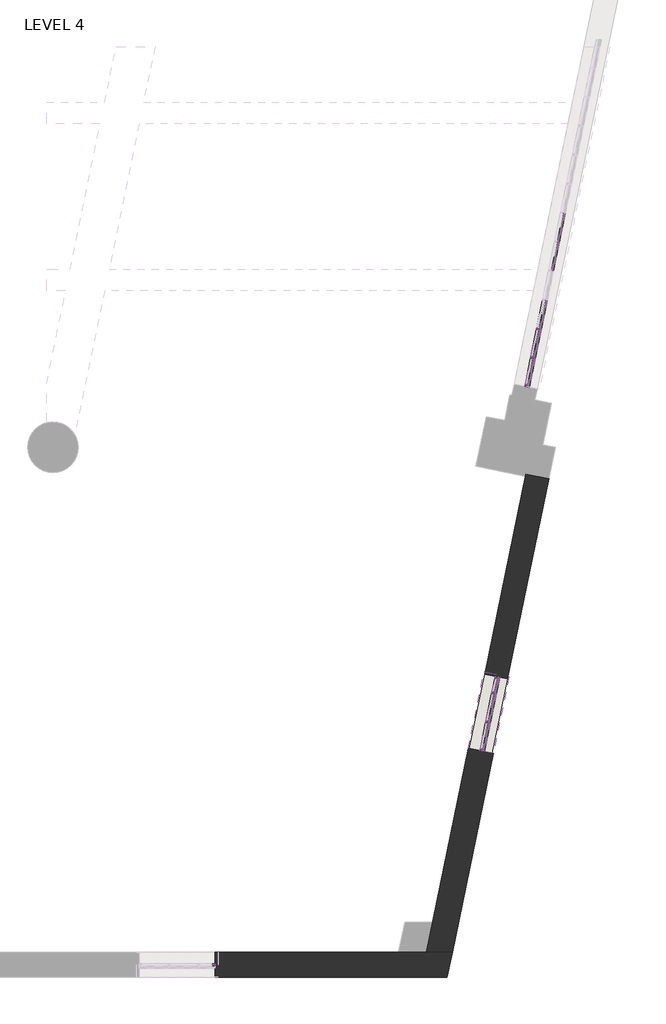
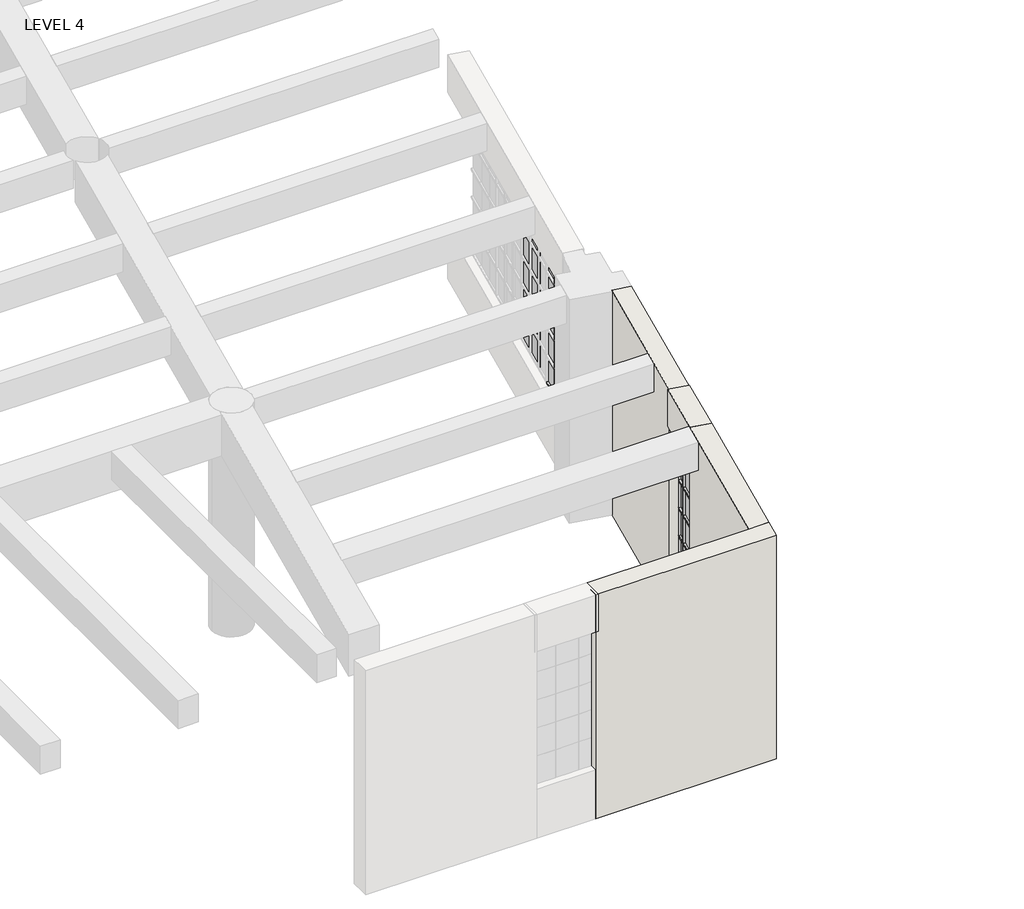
# One storey, part 17 of 26: 70 members, 40 plates, 5 walls.
"""IFC4 building model written with IfcOpenShell, lengths in millimetres."""

from ifc_helpers import new_model, si_unit, frame, origin, origin_with_axes, place, context, project, spatial, polyline, outline, extrude, faceted_brep, transform, mapped, element, save
from components import member_038dcf1c, member_0e6c94ff, member_d9fec558, member_3d4b608b, member_3c10d71f, member_653bb31e, member_9ec6e97d, member_6e26db71, member_5dd0e0a2, member_ff98d70f, member_91c6a23c, member_bbda502c, system_panel_glazed_ab35d819, system_panel_glazed_418eb6cd, system_panel_glazed_3fb58467, system_panel_glazed_40aa9f18, system_panel_glazed_fb44b68d

model = new_model("IFC4")

# Units and contexts
model_context = context("Model", 3, world=origin())
ifc_project = project(units=[si_unit("LENGTHUNIT", "METRE", prefix="MILLI")], contexts=[model_context])

# Site, building, storey
site = spatial("IfcSite", under=ifc_project)
building = spatial("IfcBuilding", under=site)
storey = spatial("IfcBuildingStorey", under=building, Name="LEVEL 4", Elevation=0.0)

# Members
placement = place(None, origin())
member_shape = member_038dcf1c(model_context)
element("IfcMember", 1, ObjectType="Circular Mullion : 1 1/4\" Square", at=placement, inside=storey, context=model_context, shape_type="MappedRepresentation", body=[
    mapped(member_shape, transform((18523.8992341, 89608.7116361, 2628.9), x_axis=(-0.20224183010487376, -0.9793356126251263, 0.0), y_axis=(0.9793356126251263, -0.20224183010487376, 0.0), z_axis=(0.0, 0.0, 1.0))),
])
element("IfcMember", 2, ObjectType="Circular Mullion : 1 1/4\" Square", at=placement, inside=storey, context=model_context, shape_type="MappedRepresentation", body=[
    mapped(member_shape, transform((18523.8992341, 89608.7116361, 2171.7), x_axis=(-0.20224183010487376, -0.9793356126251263, 0.0), y_axis=(0.9793356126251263, -0.20224183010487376, 0.0), z_axis=(0.0, 0.0, 1.0))),
])
element("IfcMember", 3, ObjectType="Circular Mullion : 1 1/4\" Square", at=placement, inside=storey, context=model_context, shape_type="MappedRepresentation", body=[
    mapped(member_shape, transform((18523.8992341, 89608.7116361, 1714.5), x_axis=(-0.20224183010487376, -0.9793356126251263, 0.0), y_axis=(0.9793356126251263, -0.20224183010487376, 0.0), z_axis=(0.0, 0.0, 1.0))),
])
element("IfcMember", 4, ObjectType="Circular Mullion : 1 1/4\" Square", at=placement, inside=storey, context=model_context, shape_type="MappedRepresentation", body=[
    mapped(member_shape, transform((19065.306455, 93988.6826954, 2628.9), x_axis=(-0.20222128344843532, -0.9793398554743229, 0.0), y_axis=(0.9793398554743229, -0.20222128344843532, 0.0), z_axis=(0.0, 0.0, 1.0))),
])
element("IfcMember", 5, ObjectType="Circular Mullion : 1 1/4\" Square", at=placement, inside=storey, context=model_context, shape_type="MappedRepresentation", body=[
    mapped(member_shape, transform((19065.306455, 93988.6826954, 2171.7), x_axis=(-0.20222128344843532, -0.9793398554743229, 0.0), y_axis=(0.9793398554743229, -0.20222128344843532, 0.0), z_axis=(0.0, 0.0, 1.0))),
])
element("IfcMember", 6, ObjectType="Circular Mullion : 1 1/4\" Square", at=placement, inside=storey, context=model_context, shape_type="MappedRepresentation", body=[
    mapped(member_shape, transform((19065.306455, 93988.6826954, 1714.5), x_axis=(-0.20222128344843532, -0.9793398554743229, 0.0), y_axis=(0.9793398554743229, -0.20222128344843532, 0.0), z_axis=(0.0, 0.0, 1.0))),
])
element("IfcMember", 7, ObjectType="Circular Mullion : 1 1/4\" Square", at=placement, inside=storey, context=model_context, shape_type="MappedRepresentation", body=[
    mapped(member_shape, transform((15326.2239622, 87038.6689412, 2171.7), x_axis=(1.0, 0.0, 0.0), y_axis=(0.0, -1.0, 0.0), z_axis=(0.0, 0.0, -1.0))),
])
element("IfcMember", 8, ObjectType="Circular Mullion : 1 1/4\" Square", at=placement, inside=storey, context=model_context, shape_type="MappedRepresentation", body=[
    mapped(member_shape, transform((15326.2239622, 87038.6689412, 1714.5), x_axis=(1.0, 0.0, 0.0), y_axis=(0.0, -1.0, 0.0), z_axis=(0.0, 0.0, -1.0))),
])
element("IfcMember", 9, ObjectType="Circular Mullion : 1 1/4\" Square", at=placement, inside=storey, context=model_context, shape_type="MappedRepresentation", body=[
    mapped(member_shape, transform((15326.2239622, 87038.6689412, 1257.3), x_axis=(1.0, 0.0, 0.0), y_axis=(0.0, -1.0, 0.0), z_axis=(0.0, 0.0, -1.0))),
])
element("IfcMember", 10, ObjectType="Circular Mullion : 1 1/4\" Square", at=placement, inside=storey, context=model_context, shape_type="MappedRepresentation", body=[
    mapped(member_shape, transform((18708.7270513, 90503.7216521, 2171.7), x_axis=(0.20224183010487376, 0.9793356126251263, 0.0), y_axis=(0.9793356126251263, -0.20224183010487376, 0.0), z_axis=(0.0, 0.0, -1.0))),
])
element("IfcMember", 11, ObjectType="Circular Mullion : 1 1/4\" Square", at=placement, inside=storey, context=model_context, shape_type="MappedRepresentation", body=[
    mapped(member_shape, transform((18708.7270513, 90503.7216521, 1714.5), x_axis=(0.20224183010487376, 0.9793356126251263, 0.0), y_axis=(0.9793356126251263, -0.20224183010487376, 0.0), z_axis=(0.0, 0.0, -1.0))),
])
element("IfcMember", 12, ObjectType="Circular Mullion : 1 1/4\" Square", at=placement, inside=storey, context=model_context, shape_type="MappedRepresentation", body=[
    mapped(member_shape, transform((18708.7270513, 90503.7216521, 1257.3), x_axis=(0.20224183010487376, 0.9793356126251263, 0.0), y_axis=(0.9793356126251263, -0.20224183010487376, 0.0), z_axis=(0.0, 0.0, -1.0))),
])
element("IfcMember", 13, ObjectType="Circular Mullion : 1 1/4\" Square", at=placement, inside=storey, context=model_context, shape_type="MappedRepresentation", body=[
    mapped(member_shape, transform((18523.8992341, 89608.7116361, 1257.3), x_axis=(-0.20224183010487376, -0.9793356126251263, 0.0), y_axis=(0.9793356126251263, -0.20224183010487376, 0.0), z_axis=(0.0, 0.0, 1.0))),
])
element("IfcMember", 14, ObjectType="Circular Mullion : 1 1/4\" Square", at=placement, inside=storey, context=model_context, shape_type="MappedRepresentation", body=[
    mapped(member_shape, transform((19065.306455, 93988.6826954, 1257.3), x_axis=(-0.20222128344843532, -0.9793398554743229, 0.0), y_axis=(0.9793398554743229, -0.20222128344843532, 0.0), z_axis=(0.0, 0.0, 1.0))),
])
element("IfcMember", 15, ObjectType="Circular Mullion : 1 1/4\" Square", at=placement, inside=storey, context=model_context, shape_type="MappedRepresentation", body=[
    mapped(member_shape, transform((15326.2239622, 87038.6689412, 800.1), x_axis=(1.0, 0.0, 0.0), y_axis=(0.0, -1.0, 0.0), z_axis=(0.0, 0.0, -1.0))),
])
element("IfcMember", 16, ObjectType="Circular Mullion : 1 1/4\" Square", at=placement, inside=storey, context=model_context, shape_type="MappedRepresentation", body=[
    mapped(member_shape, transform((18708.7270513, 90503.7216521, 800.1), x_axis=(0.20224183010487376, 0.9793356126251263, 0.0), y_axis=(0.9793356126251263, -0.20224183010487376, 0.0), z_axis=(0.0, 0.0, -1.0))),
])
member_2_shape = member_0e6c94ff(model_context)
element("IfcMember", 17, ObjectType="Circular Mullion : 1 1/4\" Square", at=placement, inside=storey, context=model_context, shape_type="MappedRepresentation", body=[
    mapped(member_2_shape, transform((18523.8992341, 89608.7116361, 3060.7), x_axis=(-0.20224183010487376, -0.9793356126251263, 0.0), y_axis=(0.9793356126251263, -0.20224183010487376, 0.0), z_axis=(0.0, 0.0, 1.0))),
])
element("IfcMember", 18, ObjectType="Circular Mullion : 1 1/4\" Square", at=placement, inside=storey, context=model_context, shape_type="MappedRepresentation", body=[
    mapped(member_2_shape, transform((18708.7270513, 90503.7216521, 2628.9), x_axis=(0.20224183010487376, 0.9793356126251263, 0.0), y_axis=(0.9793356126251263, -0.20224183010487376, 0.0), z_axis=(0.0, 0.0, -1.0))),
])
member_3_shape = member_d9fec558(model_context)
element("IfcMember", 19, ObjectType="Circular Mullion : 1 1/4\" Square", at=placement, inside=storey, context=model_context, shape_type="MappedRepresentation", body=[
    mapped(member_3_shape, transform((18595.8164289, 89956.9633803, 2628.9), x_axis=(0.20224183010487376, 0.9793356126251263, 0.0), y_axis=(0.9793356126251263, -0.20224183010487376, 0.0), z_axis=(0.0, 0.0, -1.0))),
])
element("IfcMember", 20, ObjectType="Circular Mullion : 1 1/4\" Square", at=placement, inside=storey, context=model_context, shape_type="MappedRepresentation", body=[
    mapped(member_3_shape, transform((18667.7336237, 90305.2151241, 2628.9), x_axis=(0.20224183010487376, 0.9793356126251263, 0.0), y_axis=(0.9793356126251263, -0.20224183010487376, 0.0), z_axis=(0.0, 0.0, -1.0))),
])
member_4_shape = member_3d4b608b(model_context)
element("IfcMember", 21, ObjectType="Circular Mullion : 1 1/4\" Square", at=placement, inside=storey, context=model_context, shape_type="MappedRepresentation", body=[
    mapped(member_4_shape, transform((18595.8164289, 89956.9633803, 2171.7), x_axis=(0.20224183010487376, 0.9793356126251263, 0.0), y_axis=(0.9793356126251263, -0.20224183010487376, 0.0), z_axis=(0.0, 0.0, -1.0))),
])
element("IfcMember", 22, ObjectType="Circular Mullion : 1 1/4\" Square", at=placement, inside=storey, context=model_context, shape_type="MappedRepresentation", body=[
    mapped(member_4_shape, transform((18595.8164289, 89956.9633803, 1714.5), x_axis=(0.20224183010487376, 0.9793356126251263, 0.0), y_axis=(0.9793356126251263, -0.20224183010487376, 0.0), z_axis=(0.0, 0.0, -1.0))),
])
element("IfcMember", 23, ObjectType="Circular Mullion : 1 1/4\" Square", at=placement, inside=storey, context=model_context, shape_type="MappedRepresentation", body=[
    mapped(member_4_shape, transform((18595.8164289, 89956.9633803, 1257.3), x_axis=(0.20224183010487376, 0.9793356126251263, 0.0), y_axis=(0.9793356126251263, -0.20224183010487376, 0.0), z_axis=(0.0, 0.0, -1.0))),
])
element("IfcMember", 24, ObjectType="Circular Mullion : 1 1/4\" Square", at=placement, inside=storey, context=model_context, shape_type="MappedRepresentation", body=[
    mapped(member_4_shape, transform((18667.7336237, 90305.2151241, 2171.7), x_axis=(0.20224183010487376, 0.9793356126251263, 0.0), y_axis=(0.9793356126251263, -0.20224183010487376, 0.0), z_axis=(0.0, 0.0, -1.0))),
])
element("IfcMember", 25, ObjectType="Circular Mullion : 1 1/4\" Square", at=placement, inside=storey, context=model_context, shape_type="MappedRepresentation", body=[
    mapped(member_4_shape, transform((18667.7336237, 90305.2151241, 1714.5), x_axis=(0.20224183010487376, 0.9793356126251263, 0.0), y_axis=(0.9793356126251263, -0.20224183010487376, 0.0), z_axis=(0.0, 0.0, -1.0))),
])
element("IfcMember", 26, ObjectType="Circular Mullion : 1 1/4\" Square", at=placement, inside=storey, context=model_context, shape_type="MappedRepresentation", body=[
    mapped(member_4_shape, transform((18667.7336237, 90305.2151241, 1257.3), x_axis=(0.20224183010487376, 0.9793356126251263, 0.0), y_axis=(0.9793356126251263, -0.20224183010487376, 0.0), z_axis=(0.0, 0.0, -1.0))),
])
element("IfcMember", 27, ObjectType="Circular Mullion : 1 1/4\" Square", at=placement, inside=storey, context=model_context, shape_type="MappedRepresentation", body=[
    mapped(member_4_shape, transform((19137.2163434, 94336.9359483, 2171.7), x_axis=(0.20222128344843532, 0.9793398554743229, 0.0), y_axis=(0.9793398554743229, -0.20222128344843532, 0.0), z_axis=(0.0, 0.0, -1.0))),
])
element("IfcMember", 28, ObjectType="Circular Mullion : 1 1/4\" Square", at=placement, inside=storey, context=model_context, shape_type="MappedRepresentation", body=[
    mapped(member_4_shape, transform((19137.2163434, 94336.9359483, 1714.5), x_axis=(0.20222128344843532, 0.9793398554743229, 0.0), y_axis=(0.9793398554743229, -0.20222128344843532, 0.0), z_axis=(0.0, 0.0, -1.0))),
])
element("IfcMember", 29, ObjectType="Circular Mullion : 1 1/4\" Square", at=placement, inside=storey, context=model_context, shape_type="MappedRepresentation", body=[
    mapped(member_4_shape, transform((19137.2163434, 94336.9359483, 1257.3), x_axis=(0.20222128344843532, 0.9793398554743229, 0.0), y_axis=(0.9793398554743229, -0.20222128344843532, 0.0), z_axis=(0.0, 0.0, -1.0))),
])
element("IfcMember", 30, ObjectType="Circular Mullion : 1 1/4\" Square", at=placement, inside=storey, context=model_context, shape_type="MappedRepresentation", body=[
    mapped(member_4_shape, transform((19209.1262318, 94685.1892009, 2171.7), x_axis=(0.20222128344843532, 0.9793398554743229, 0.0), y_axis=(0.9793398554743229, -0.20222128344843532, 0.0), z_axis=(0.0, 0.0, -1.0))),
])
element("IfcMember", 31, ObjectType="Circular Mullion : 1 1/4\" Square", at=placement, inside=storey, context=model_context, shape_type="MappedRepresentation", body=[
    mapped(member_4_shape, transform((19209.1262318, 94685.1892009, 1714.5), x_axis=(0.20222128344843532, 0.9793398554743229, 0.0), y_axis=(0.9793398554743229, -0.20222128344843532, 0.0), z_axis=(0.0, 0.0, -1.0))),
])
element("IfcMember", 32, ObjectType="Circular Mullion : 1 1/4\" Square", at=placement, inside=storey, context=model_context, shape_type="MappedRepresentation", body=[
    mapped(member_4_shape, transform((19209.1262318, 94685.1892009, 1257.3), x_axis=(0.20222128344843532, 0.9793398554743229, 0.0), y_axis=(0.9793398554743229, -0.20222128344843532, 0.0), z_axis=(0.0, 0.0, -1.0))),
])
element("IfcMember", 33, ObjectType="Circular Mullion : 1 1/4\" Square", at=placement, inside=storey, context=model_context, shape_type="MappedRepresentation", body=[
    mapped(member_4_shape, transform((18595.8164289, 89956.9633803, 800.1), x_axis=(0.20224183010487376, 0.9793356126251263, 0.0), y_axis=(0.9793356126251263, -0.20224183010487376, 0.0), z_axis=(0.0, 0.0, -1.0))),
])
element("IfcMember", 34, ObjectType="Circular Mullion : 1 1/4\" Square", at=placement, inside=storey, context=model_context, shape_type="MappedRepresentation", body=[
    mapped(member_4_shape, transform((18667.7336237, 90305.2151241, 800.1), x_axis=(0.20224183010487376, 0.9793356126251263, 0.0), y_axis=(0.9793356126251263, -0.20224183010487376, 0.0), z_axis=(0.0, 0.0, -1.0))),
])
element("IfcMember", 35, ObjectType="Circular Mullion : 1 1/4\" Square", at=placement, inside=storey, context=model_context, shape_type="MappedRepresentation", body=[
    mapped(member_4_shape, transform((19137.2163434, 94336.9359483, 800.1), x_axis=(0.20222128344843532, 0.9793398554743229, 0.0), y_axis=(0.9793398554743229, -0.20222128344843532, 0.0), z_axis=(0.0, 0.0, -1.0))),
])
element("IfcMember", 36, ObjectType="Circular Mullion : 1 1/4\" Square", at=placement, inside=storey, context=model_context, shape_type="MappedRepresentation", body=[
    mapped(member_4_shape, transform((19209.1262318, 94685.1892009, 800.1), x_axis=(0.20222128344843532, 0.9793398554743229, 0.0), y_axis=(0.9793398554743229, -0.20222128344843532, 0.0), z_axis=(0.0, 0.0, -1.0))),
])
member_5_shape = member_3c10d71f(model_context)
element("IfcMember", 37, ObjectType="Circular Mullion : 1 1/4\" Square", at=placement, inside=storey, context=model_context, shape_type="MappedRepresentation", body=[
    mapped(member_5_shape, transform((19206.5580215, 94672.7515847, 3048.0), x_axis=(0.0, 0.0, 1.0), y_axis=(0.979339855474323, -0.20222128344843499, 0.0), z_axis=(0.20222128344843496, 0.9793398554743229, 0.0))),
])
element("IfcMember", 38, ObjectType="Circular Mullion : 1 1/4\" Square", at=placement, inside=storey, context=model_context, shape_type="MappedRepresentation", body=[
    mapped(member_5_shape, transform((18665.1651525, 90292.7775618, 3060.7), x_axis=(0.0, 0.0, 1.0), y_axis=(0.9793356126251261, -0.20224183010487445, 0.0), z_axis=(0.20224183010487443, 0.979335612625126, 0.0))),
])
element("IfcMember", 39, ObjectType="Circular Mullion : 1 1/4\" Square", at=placement, inside=storey, context=model_context, shape_type="MappedRepresentation", body=[
    mapped(member_5_shape, transform((18598.3849002, 89969.4009426, 800.1), x_axis=(0.0, 0.0, -1.0), y_axis=(0.9793356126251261, -0.20224183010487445, 0.0), z_axis=(-0.20224183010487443, -0.979335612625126, 0.0))),
])
element("IfcMember", 40, ObjectType="Circular Mullion : 1 1/4\" Square", at=placement, inside=storey, context=model_context, shape_type="MappedRepresentation", body=[
    mapped(member_5_shape, transform((19139.7845537, 94349.3735645, 800.1), x_axis=(0.0, 0.0, -1.0), y_axis=(0.979339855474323, -0.20222128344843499, 0.0), z_axis=(-0.20222128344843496, -0.9793398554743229, 0.0))),
])
element("IfcMember", 41, ObjectType="Circular Mullion : 1 1/4\" Square", at=placement, inside=storey, context=model_context, shape_type="MappedRepresentation", body=[
    mapped(member_5_shape, transform((19211.6944421, 94697.6268171, 800.1), x_axis=(0.0, 0.0, -1.0), y_axis=(0.9793398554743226, -0.202221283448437, 0.0), z_axis=(-0.202221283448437, -0.9793398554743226, 0.0))),
])
member_6_shape = member_653bb31e(model_context)
element("IfcMember", 42, ObjectType="Circular Mullion : 1 1/4\" Square", at=placement, inside=storey, context=model_context, shape_type="MappedRepresentation", body=[
    mapped(member_6_shape, transform((18665.1651525, 90292.7775618, 2171.7), x_axis=(0.0, 0.0, 1.0), y_axis=(0.9793356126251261, -0.20224183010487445, 0.0), z_axis=(0.20224183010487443, 0.979335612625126, 0.0))),
])
element("IfcMember", 43, ObjectType="Circular Mullion : 1 1/4\" Square", at=placement, inside=storey, context=model_context, shape_type="MappedRepresentation", body=[
    mapped(member_6_shape, transform((18665.1651525, 90292.7775618, 1714.5), x_axis=(0.0, 0.0, 1.0), y_axis=(0.9793356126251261, -0.20224183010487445, 0.0), z_axis=(0.20224183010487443, 0.979335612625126, 0.0))),
])
element("IfcMember", 44, ObjectType="Circular Mullion : 1 1/4\" Square", at=placement, inside=storey, context=model_context, shape_type="MappedRepresentation", body=[
    mapped(member_6_shape, transform((18665.1651525, 90292.7775618, 1257.3), x_axis=(0.0, 0.0, 1.0), y_axis=(0.9793356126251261, -0.20224183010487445, 0.0), z_axis=(0.20224183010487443, 0.979335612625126, 0.0))),
])
element("IfcMember", 45, ObjectType="Circular Mullion : 1 1/4\" Square", at=placement, inside=storey, context=model_context, shape_type="MappedRepresentation", body=[
    mapped(member_6_shape, transform((18665.1651525, 90292.7775618, 2628.9), x_axis=(0.0, 0.0, 1.0), y_axis=(0.9793356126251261, -0.20224183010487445, 0.0), z_axis=(0.20224183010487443, 0.979335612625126, 0.0))),
])
element("IfcMember", 46, ObjectType="Circular Mullion : 1 1/4\" Square", at=placement, inside=storey, context=model_context, shape_type="MappedRepresentation", body=[
    mapped(member_6_shape, transform((19206.5580215, 94672.7515847, 2171.7), x_axis=(0.0, 0.0, 1.0), y_axis=(0.979339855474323, -0.20222128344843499, 0.0), z_axis=(0.20222128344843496, 0.9793398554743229, 0.0))),
])
element("IfcMember", 47, ObjectType="Circular Mullion : 1 1/4\" Square", at=placement, inside=storey, context=model_context, shape_type="MappedRepresentation", body=[
    mapped(member_6_shape, transform((19206.5580215, 94672.7515847, 1714.5), x_axis=(0.0, 0.0, 1.0), y_axis=(0.979339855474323, -0.20222128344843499, 0.0), z_axis=(0.20222128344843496, 0.9793398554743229, 0.0))),
])
element("IfcMember", 48, ObjectType="Circular Mullion : 1 1/4\" Square", at=placement, inside=storey, context=model_context, shape_type="MappedRepresentation", body=[
    mapped(member_6_shape, transform((19206.5580215, 94672.7515847, 1257.3), x_axis=(0.0, 0.0, 1.0), y_axis=(0.979339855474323, -0.20222128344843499, 0.0), z_axis=(0.20222128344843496, 0.9793398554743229, 0.0))),
])
element("IfcMember", 49, ObjectType="Circular Mullion : 1 1/4\" Square", at=placement, inside=storey, context=model_context, shape_type="MappedRepresentation", body=[
    mapped(member_6_shape, transform((19206.5580215, 94672.7515847, 2628.9), x_axis=(0.0, 0.0, 1.0), y_axis=(0.979339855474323, -0.20222128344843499, 0.0), z_axis=(0.20222128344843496, 0.9793398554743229, 0.0))),
])
member_7_shape = member_9ec6e97d(model_context)
element("IfcMember", 50, ObjectType="Circular Mullion : 1 1/4\" Square", at=placement, inside=storey, context=model_context, shape_type="MappedRepresentation", body=[
    mapped(member_7_shape, transform((19134.6481331, 94324.4983321, 3048.0), x_axis=(0.0, 0.0, 1.0), y_axis=(0.9793398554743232, -0.20222128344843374, 0.0), z_axis=(0.20222128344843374, 0.9793398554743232, 0.0))),
])
element("IfcMember", 51, ObjectType="Circular Mullion : 1 1/4\" Square", at=placement, inside=storey, context=model_context, shape_type="MappedRepresentation", body=[
    mapped(member_7_shape, transform((18593.2479577, 89944.525818, 3060.7), x_axis=(0.0, 0.0, 1.0), y_axis=(0.9793356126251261, -0.2022418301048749, 0.0), z_axis=(0.2022418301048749, 0.9793356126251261, 0.0))),
])
element("IfcMember", 52, ObjectType="Circular Mullion : 1 1/4\" Square", at=placement, inside=storey, context=model_context, shape_type="MappedRepresentation", body=[
    mapped(member_7_shape, transform((18529.0361766, 89633.5867607, 800.1), x_axis=(0.0, 0.0, -1.0), y_axis=(0.9793356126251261, -0.2022418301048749, 0.0), z_axis=(-0.2022418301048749, -0.9793356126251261, 0.0))),
])
element("IfcMember", 53, ObjectType="Circular Mullion : 1 1/4\" Square", at=placement, inside=storey, context=model_context, shape_type="MappedRepresentation", body=[
    mapped(member_7_shape, transform((19070.4428756, 94013.5579277, 800.1), x_axis=(0.0, 0.0, -1.0), y_axis=(0.9793398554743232, -0.20222128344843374, 0.0), z_axis=(-0.20222128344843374, -0.9793398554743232, 0.0))),
])
member_8_shape = member_6e26db71(model_context)
element("IfcMember", 54, ObjectType="Circular Mullion : 1 1/4\" Square", at=placement, inside=storey, context=model_context, shape_type="MappedRepresentation", body=[
    mapped(member_8_shape, transform((18593.2479577, 89944.525818, 2171.7), x_axis=(0.0, 0.0, 1.0), y_axis=(0.9793356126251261, -0.2022418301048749, 0.0), z_axis=(0.2022418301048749, 0.9793356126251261, 0.0))),
])
element("IfcMember", 55, ObjectType="Circular Mullion : 1 1/4\" Square", at=placement, inside=storey, context=model_context, shape_type="MappedRepresentation", body=[
    mapped(member_8_shape, transform((18593.2479577, 89944.525818, 1714.5), x_axis=(0.0, 0.0, 1.0), y_axis=(0.9793356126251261, -0.2022418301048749, 0.0), z_axis=(0.2022418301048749, 0.9793356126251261, 0.0))),
])
element("IfcMember", 56, ObjectType="Circular Mullion : 1 1/4\" Square", at=placement, inside=storey, context=model_context, shape_type="MappedRepresentation", body=[
    mapped(member_8_shape, transform((18593.2479577, 89944.525818, 1257.3), x_axis=(0.0, 0.0, 1.0), y_axis=(0.9793356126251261, -0.2022418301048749, 0.0), z_axis=(0.2022418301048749, 0.9793356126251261, 0.0))),
])
element("IfcMember", 57, ObjectType="Circular Mullion : 1 1/4\" Square", at=placement, inside=storey, context=model_context, shape_type="MappedRepresentation", body=[
    mapped(member_8_shape, transform((18593.2479577, 89944.525818, 2628.9), x_axis=(0.0, 0.0, 1.0), y_axis=(0.9793356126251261, -0.2022418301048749, 0.0), z_axis=(0.2022418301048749, 0.9793356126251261, 0.0))),
])
element("IfcMember", 58, ObjectType="Circular Mullion : 1 1/4\" Square", at=placement, inside=storey, context=model_context, shape_type="MappedRepresentation", body=[
    mapped(member_8_shape, transform((19134.6481331, 94324.4983321, 2171.7), x_axis=(0.0, 0.0, 1.0), y_axis=(0.9793398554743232, -0.20222128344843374, 0.0), z_axis=(0.20222128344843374, 0.9793398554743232, 0.0))),
])
element("IfcMember", 59, ObjectType="Circular Mullion : 1 1/4\" Square", at=placement, inside=storey, context=model_context, shape_type="MappedRepresentation", body=[
    mapped(member_8_shape, transform((19134.6481331, 94324.4983321, 1714.5), x_axis=(0.0, 0.0, 1.0), y_axis=(0.9793398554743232, -0.20222128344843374, 0.0), z_axis=(0.20222128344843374, 0.9793398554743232, 0.0))),
])
element("IfcMember", 60, ObjectType="Circular Mullion : 1 1/4\" Square", at=placement, inside=storey, context=model_context, shape_type="MappedRepresentation", body=[
    mapped(member_8_shape, transform((19134.6481331, 94324.4983321, 1257.3), x_axis=(0.0, 0.0, 1.0), y_axis=(0.9793398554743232, -0.20222128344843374, 0.0), z_axis=(0.20222128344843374, 0.9793398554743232, 0.0))),
])
element("IfcMember", 61, ObjectType="Circular Mullion : 1 1/4\" Square", at=placement, inside=storey, context=model_context, shape_type="MappedRepresentation", body=[
    mapped(member_8_shape, transform((19134.6481331, 94324.4983321, 2628.9), x_axis=(0.0, 0.0, 1.0), y_axis=(0.9793398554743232, -0.20222128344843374, 0.0), z_axis=(0.20222128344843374, 0.9793398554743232, 0.0))),
])
member_9_shape = member_5dd0e0a2(model_context)
element("IfcMember", 62, ObjectType="Circular Mullion : 1 1/4\" Square", at=placement, inside=storey, context=model_context, shape_type="MappedRepresentation", body=[
    mapped(member_9_shape, transform((19065.306455, 93988.6826954, 3048.0), x_axis=(-0.20222128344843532, -0.9793398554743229, 0.0), y_axis=(0.9793398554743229, -0.20222128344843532, 0.0), z_axis=(0.0, 0.0, 1.0))),
])
member_10_shape = member_ff98d70f(model_context)
element("IfcMember", 63, ObjectType="Circular Mullion : 1 1/4\" Square", at=placement, inside=storey, context=model_context, shape_type="MappedRepresentation", body=[
    mapped(member_10_shape, transform((19137.2163434, 94336.9359483, 2628.9), x_axis=(0.20222128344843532, 0.9793398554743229, 0.0), y_axis=(0.9793398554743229, -0.20222128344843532, 0.0), z_axis=(0.0, 0.0, -1.0))),
])
element("IfcMember", 64, ObjectType="Circular Mullion : 1 1/4\" Square", at=placement, inside=storey, context=model_context, shape_type="MappedRepresentation", body=[
    mapped(member_10_shape, transform((19209.1262318, 94685.1892009, 2628.9), x_axis=(0.20222128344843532, 0.9793398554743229, 0.0), y_axis=(0.9793398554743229, -0.20222128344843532, 0.0), z_axis=(0.0, 0.0, -1.0))),
])
member_11_shape = member_91c6a23c(model_context)
element("IfcMember", 65, ObjectType="Circular Mullion : 1 1/4\" Square", at=placement, inside=storey, context=model_context, shape_type="MappedRepresentation", body=[
    mapped(member_11_shape, transform((18703.5901088, 90478.8465275, 2171.7), x_axis=(0.0, 0.0, 1.0), y_axis=(0.9793356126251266, -0.20224183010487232, 0.0), z_axis=(0.2022418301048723, 0.9793356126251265, 0.0))),
])
element("IfcMember", 66, ObjectType="Circular Mullion : 1 1/4\" Square", at=placement, inside=storey, context=model_context, shape_type="MappedRepresentation", body=[
    mapped(member_11_shape, transform((18703.5901088, 90478.8465275, 1714.5), x_axis=(0.0, 0.0, 1.0), y_axis=(0.9793356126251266, -0.20224183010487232, 0.0), z_axis=(0.2022418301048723, 0.9793356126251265, 0.0))),
])
element("IfcMember", 67, ObjectType="Circular Mullion : 1 1/4\" Square", at=placement, inside=storey, context=model_context, shape_type="MappedRepresentation", body=[
    mapped(member_11_shape, transform((18703.5901088, 90478.8465275, 1257.3), x_axis=(0.0, 0.0, 1.0), y_axis=(0.9793356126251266, -0.20224183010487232, 0.0), z_axis=(0.2022418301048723, 0.9793356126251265, 0.0))),
])
element("IfcMember", 68, ObjectType="Circular Mullion : 1 1/4\" Square", at=placement, inside=storey, context=model_context, shape_type="MappedRepresentation", body=[
    mapped(member_11_shape, transform((18703.5901088, 90478.8465275, 2628.9), x_axis=(0.0, 0.0, 1.0), y_axis=(0.9793356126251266, -0.20224183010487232, 0.0), z_axis=(0.2022418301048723, 0.9793356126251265, 0.0))),
])
member_12_shape = member_bbda502c(model_context)
element("IfcMember", 69, ObjectType="Circular Mullion : 1 1/4\" Square", at=placement, inside=storey, context=model_context, shape_type="MappedRepresentation", body=[
    mapped(member_12_shape, transform((18670.302095, 90317.6526864, 800.1), x_axis=(0.0, 0.0, -1.0), y_axis=(0.9793356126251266, -0.20224183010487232, 0.0), z_axis=(-0.2022418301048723, -0.9793356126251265, 0.0))),
])
element("IfcMember", 70, ObjectType="Circular Mullion : 1 1/4\" Square", at=placement, inside=storey, context=model_context, shape_type="MappedRepresentation", body=[
    mapped(member_12_shape, transform((18703.5901088, 90478.8465275, 3060.7), x_axis=(0.0, 0.0, 1.0), y_axis=(0.9793356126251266, -0.20224183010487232, 0.0), z_axis=(0.2022418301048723, 0.9793356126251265, 0.0))),
])

# Plates
system_panel_glazed_shape = system_panel_glazed_ab35d819(model_context)
element("IfcPlate", 71, ObjectType="System Panel : Glazed", at=placement, inside=storey, context=model_context, shape_type="MappedRepresentation", body=[
    mapped(system_panel_glazed_shape, transform((19101.2613992, 94162.8093218, 800.1), x_axis=(0.20222128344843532, 0.9793398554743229, 0.0), y_axis=(-0.9793398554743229, 0.20222128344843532, 0.0), z_axis=(0.0, 0.0, 1.0))),
])
element("IfcPlate", 72, ObjectType="System Panel : Glazed", at=placement, inside=storey, context=model_context, shape_type="MappedRepresentation", body=[
    mapped(system_panel_glazed_shape, transform((18559.8578315, 89782.8375082, 800.1), x_axis=(0.20224183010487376, 0.9793356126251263, 0.0), y_axis=(-0.9793356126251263, 0.20224183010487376, 0.0), z_axis=(0.0, 0.0, 1.0))),
])
element("IfcPlate", 73, ObjectType="System Panel : Glazed", at=placement, inside=storey, context=model_context, shape_type="MappedRepresentation", body=[
    mapped(system_panel_glazed_shape, transform((19460.8108412, 95904.075585, 800.1), x_axis=(0.20222128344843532, 0.9793398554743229, 0.0), y_axis=(-0.9793398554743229, 0.20222128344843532, 0.0), z_axis=(0.0, 0.0, 1.0))),
])
element("IfcPlate", 74, ObjectType="System Panel : Glazed", at=placement, inside=storey, context=model_context, shape_type="MappedRepresentation", body=[
    mapped(system_panel_glazed_shape, transform((19388.9009528, 95555.8223324, 800.1), x_axis=(0.20222128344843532, 0.9793398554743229, 0.0), y_axis=(-0.9793398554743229, 0.20222128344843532, 0.0), z_axis=(0.0, 0.0, 1.0))),
])
element("IfcPlate", 75, ObjectType="System Panel : Glazed", at=placement, inside=storey, context=model_context, shape_type="MappedRepresentation", body=[
    mapped(system_panel_glazed_shape, transform((19101.2613992, 94162.8093218, 1257.3), x_axis=(0.20222128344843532, 0.9793398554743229, 0.0), y_axis=(-0.9793398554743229, 0.20222128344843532, 0.0), z_axis=(0.0, 0.0, 1.0))),
])
element("IfcPlate", 76, ObjectType="System Panel : Glazed", at=placement, inside=storey, context=model_context, shape_type="MappedRepresentation", body=[
    mapped(system_panel_glazed_shape, transform((19460.8108412, 95904.075585, 1257.3), x_axis=(0.20222128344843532, 0.9793398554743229, 0.0), y_axis=(-0.9793398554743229, 0.20222128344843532, 0.0), z_axis=(0.0, 0.0, 1.0))),
])
element("IfcPlate", 77, ObjectType="System Panel : Glazed", at=placement, inside=storey, context=model_context, shape_type="MappedRepresentation", body=[
    mapped(system_panel_glazed_shape, transform((19388.9009528, 95555.8223324, 1257.3), x_axis=(0.20222128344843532, 0.9793398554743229, 0.0), y_axis=(-0.9793398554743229, 0.20222128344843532, 0.0), z_axis=(0.0, 0.0, 1.0))),
])
element("IfcPlate", 78, ObjectType="System Panel : Glazed", at=placement, inside=storey, context=model_context, shape_type="MappedRepresentation", body=[
    mapped(system_panel_glazed_shape, transform((19101.2613992, 94162.8093218, 1714.5), x_axis=(0.20222128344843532, 0.9793398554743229, 0.0), y_axis=(-0.9793398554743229, 0.20222128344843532, 0.0), z_axis=(0.0, 0.0, 1.0))),
])
element("IfcPlate", 79, ObjectType="System Panel : Glazed", at=placement, inside=storey, context=model_context, shape_type="MappedRepresentation", body=[
    mapped(system_panel_glazed_shape, transform((19460.8108412, 95904.075585, 1714.5), x_axis=(0.20222128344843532, 0.9793398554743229, 0.0), y_axis=(-0.9793398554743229, 0.20222128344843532, 0.0), z_axis=(0.0, 0.0, 1.0))),
])
element("IfcPlate", 80, ObjectType="System Panel : Glazed", at=placement, inside=storey, context=model_context, shape_type="MappedRepresentation", body=[
    mapped(system_panel_glazed_shape, transform((19388.9009528, 95555.8223324, 1714.5), x_axis=(0.20222128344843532, 0.9793398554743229, 0.0), y_axis=(-0.9793398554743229, 0.20222128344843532, 0.0), z_axis=(0.0, 0.0, 1.0))),
])
element("IfcPlate", 81, ObjectType="System Panel : Glazed", at=placement, inside=storey, context=model_context, shape_type="MappedRepresentation", body=[
    mapped(system_panel_glazed_shape, transform((19101.2613992, 94162.8093218, 2171.7), x_axis=(0.20222128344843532, 0.9793398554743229, 0.0), y_axis=(-0.9793398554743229, 0.20222128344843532, 0.0), z_axis=(0.0, 0.0, 1.0))),
])
element("IfcPlate", 82, ObjectType="System Panel : Glazed", at=placement, inside=storey, context=model_context, shape_type="MappedRepresentation", body=[
    mapped(system_panel_glazed_shape, transform((19460.8108412, 95904.075585, 2171.7), x_axis=(0.20222128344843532, 0.9793398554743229, 0.0), y_axis=(-0.9793398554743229, 0.20222128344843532, 0.0), z_axis=(0.0, 0.0, 1.0))),
])
element("IfcPlate", 83, ObjectType="System Panel : Glazed", at=placement, inside=storey, context=model_context, shape_type="MappedRepresentation", body=[
    mapped(system_panel_glazed_shape, transform((19388.9009528, 95555.8223324, 2171.7), x_axis=(0.20222128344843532, 0.9793398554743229, 0.0), y_axis=(-0.9793398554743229, 0.20222128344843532, 0.0), z_axis=(0.0, 0.0, 1.0))),
])
element("IfcPlate", 84, ObjectType="System Panel : Glazed", at=placement, inside=storey, context=model_context, shape_type="MappedRepresentation", body=[
    mapped(system_panel_glazed_shape, transform((18631.7750263, 90131.0892522, 800.1), x_axis=(0.20224183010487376, 0.9793356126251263, 0.0), y_axis=(-0.9793356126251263, 0.20224183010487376, 0.0), z_axis=(0.0, 0.0, 1.0))),
])
element("IfcPlate", 85, ObjectType="System Panel : Glazed", at=placement, inside=storey, context=model_context, shape_type="MappedRepresentation", body=[
    mapped(system_panel_glazed_shape, transform((18559.8578315, 89782.8375082, 1257.3), x_axis=(0.20224183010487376, 0.9793356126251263, 0.0), y_axis=(-0.9793356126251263, 0.20224183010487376, 0.0), z_axis=(0.0, 0.0, 1.0))),
])
element("IfcPlate", 86, ObjectType="System Panel : Glazed", at=placement, inside=storey, context=model_context, shape_type="MappedRepresentation", body=[
    mapped(system_panel_glazed_shape, transform((18631.7750263, 90131.0892522, 1257.3), x_axis=(0.20224183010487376, 0.9793356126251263, 0.0), y_axis=(-0.9793356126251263, 0.20224183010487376, 0.0), z_axis=(0.0, 0.0, 1.0))),
])
element("IfcPlate", 87, ObjectType="System Panel : Glazed", at=placement, inside=storey, context=model_context, shape_type="MappedRepresentation", body=[
    mapped(system_panel_glazed_shape, transform((18559.8578315, 89782.8375082, 1714.5), x_axis=(0.20224183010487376, 0.9793356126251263, 0.0), y_axis=(-0.9793356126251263, 0.20224183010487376, 0.0), z_axis=(0.0, 0.0, 1.0))),
])
element("IfcPlate", 88, ObjectType="System Panel : Glazed", at=placement, inside=storey, context=model_context, shape_type="MappedRepresentation", body=[
    mapped(system_panel_glazed_shape, transform((18631.7750263, 90131.0892522, 1714.5), x_axis=(0.20224183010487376, 0.9793356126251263, 0.0), y_axis=(-0.9793356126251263, 0.20224183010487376, 0.0), z_axis=(0.0, 0.0, 1.0))),
])
element("IfcPlate", 89, ObjectType="System Panel : Glazed", at=placement, inside=storey, context=model_context, shape_type="MappedRepresentation", body=[
    mapped(system_panel_glazed_shape, transform((18559.8578315, 89782.8375082, 2171.7), x_axis=(0.20224183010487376, 0.9793356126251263, 0.0), y_axis=(-0.9793356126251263, 0.20224183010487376, 0.0), z_axis=(0.0, 0.0, 1.0))),
])
element("IfcPlate", 90, ObjectType="System Panel : Glazed", at=placement, inside=storey, context=model_context, shape_type="MappedRepresentation", body=[
    mapped(system_panel_glazed_shape, transform((18631.7750263, 90131.0892522, 2171.7), x_axis=(0.20224183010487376, 0.9793356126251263, 0.0), y_axis=(-0.9793356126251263, 0.20224183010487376, 0.0), z_axis=(0.0, 0.0, 1.0))),
])
element("IfcPlate", 91, ObjectType="System Panel : Glazed", at=placement, inside=storey, context=model_context, shape_type="MappedRepresentation", body=[
    mapped(system_panel_glazed_shape, transform((19245.081176, 94859.3158272, 800.1), x_axis=(0.20222128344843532, 0.9793398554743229, 0.0), y_axis=(-0.9793398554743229, 0.20222128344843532, 0.0), z_axis=(0.0, 0.0, 1.0))),
])
element("IfcPlate", 92, ObjectType="System Panel : Glazed", at=placement, inside=storey, context=model_context, shape_type="MappedRepresentation", body=[
    mapped(system_panel_glazed_shape, transform((19245.081176, 94859.3158272, 1257.3), x_axis=(0.20222128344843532, 0.9793398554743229, 0.0), y_axis=(-0.9793398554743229, 0.20222128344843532, 0.0), z_axis=(0.0, 0.0, 1.0))),
])
element("IfcPlate", 93, ObjectType="System Panel : Glazed", at=placement, inside=storey, context=model_context, shape_type="MappedRepresentation", body=[
    mapped(system_panel_glazed_shape, transform((19245.081176, 94859.3158272, 1714.5), x_axis=(0.20222128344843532, 0.9793398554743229, 0.0), y_axis=(-0.9793398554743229, 0.20222128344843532, 0.0), z_axis=(0.0, 0.0, 1.0))),
])
element("IfcPlate", 94, ObjectType="System Panel : Glazed", at=placement, inside=storey, context=model_context, shape_type="MappedRepresentation", body=[
    mapped(system_panel_glazed_shape, transform((19245.081176, 94859.3158272, 2171.7), x_axis=(0.20222128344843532, 0.9793398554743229, 0.0), y_axis=(-0.9793398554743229, 0.20222128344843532, 0.0), z_axis=(0.0, 0.0, 1.0))),
])
element("IfcPlate", 95, ObjectType="System Panel : Glazed", at=placement, inside=storey, context=model_context, shape_type="MappedRepresentation", body=[
    mapped(system_panel_glazed_shape, transform((19173.1712876, 94511.0625746, 800.1), x_axis=(0.20222128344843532, 0.9793398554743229, 0.0), y_axis=(-0.9793398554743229, 0.20222128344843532, 0.0), z_axis=(0.0, 0.0, 1.0))),
])
element("IfcPlate", 96, ObjectType="System Panel : Glazed", at=placement, inside=storey, context=model_context, shape_type="MappedRepresentation", body=[
    mapped(system_panel_glazed_shape, transform((19173.1712876, 94511.0625746, 1257.3), x_axis=(0.20222128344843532, 0.9793398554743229, 0.0), y_axis=(-0.9793398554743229, 0.20222128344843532, 0.0), z_axis=(0.0, 0.0, 1.0))),
])
element("IfcPlate", 97, ObjectType="System Panel : Glazed", at=placement, inside=storey, context=model_context, shape_type="MappedRepresentation", body=[
    mapped(system_panel_glazed_shape, transform((19173.1712876, 94511.0625746, 1714.5), x_axis=(0.20222128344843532, 0.9793398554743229, 0.0), y_axis=(-0.9793398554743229, 0.20222128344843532, 0.0), z_axis=(0.0, 0.0, 1.0))),
])
element("IfcPlate", 98, ObjectType="System Panel : Glazed", at=placement, inside=storey, context=model_context, shape_type="MappedRepresentation", body=[
    mapped(system_panel_glazed_shape, transform((19173.1712876, 94511.0625746, 2171.7), x_axis=(0.20222128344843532, 0.9793398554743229, 0.0), y_axis=(-0.9793398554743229, 0.20222128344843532, 0.0), z_axis=(0.0, 0.0, 1.0))),
])
system_panel_glazed_2_shape = system_panel_glazed_418eb6cd(model_context)
element("IfcPlate", 99, ObjectType="System Panel : Glazed", at=placement, inside=storey, context=model_context, shape_type="MappedRepresentation", body=[
    mapped(system_panel_glazed_2_shape, transform((18559.8578315, 89782.8375082, 2628.9), x_axis=(0.20224183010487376, 0.9793356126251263, 0.0), y_axis=(-0.9793356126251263, 0.20224183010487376, 0.0), z_axis=(0.0, 0.0, 1.0))),
])
element("IfcPlate", 100, ObjectType="System Panel : Glazed", at=placement, inside=storey, context=model_context, shape_type="MappedRepresentation", body=[
    mapped(system_panel_glazed_2_shape, transform((18631.7750263, 90131.0892522, 2628.9), x_axis=(0.20224183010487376, 0.9793356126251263, 0.0), y_axis=(-0.9793356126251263, 0.20224183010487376, 0.0), z_axis=(0.0, 0.0, 1.0))),
])
system_panel_glazed_3_shape = system_panel_glazed_3fb58467(model_context)
element("IfcPlate", 101, ObjectType="System Panel : Glazed", at=placement, inside=storey, context=model_context, shape_type="MappedRepresentation", body=[
    mapped(system_panel_glazed_3_shape, transform((19101.2613992, 94162.8093218, 2628.9), x_axis=(0.20222128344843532, 0.9793398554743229, 0.0), y_axis=(-0.9793398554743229, 0.20222128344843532, 0.0), z_axis=(0.0, 0.0, 1.0))),
])
element("IfcPlate", 102, ObjectType="System Panel : Glazed", at=placement, inside=storey, context=model_context, shape_type="MappedRepresentation", body=[
    mapped(system_panel_glazed_3_shape, transform((19460.8108412, 95904.075585, 2628.9), x_axis=(0.20222128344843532, 0.9793398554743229, 0.0), y_axis=(-0.9793398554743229, 0.20222128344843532, 0.0), z_axis=(0.0, 0.0, 1.0))),
])
element("IfcPlate", 103, ObjectType="System Panel : Glazed", at=placement, inside=storey, context=model_context, shape_type="MappedRepresentation", body=[
    mapped(system_panel_glazed_3_shape, transform((19388.9009528, 95555.8223324, 2628.9), x_axis=(0.20222128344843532, 0.9793398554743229, 0.0), y_axis=(-0.9793398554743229, 0.20222128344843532, 0.0), z_axis=(0.0, 0.0, 1.0))),
])
element("IfcPlate", 104, ObjectType="System Panel : Glazed", at=placement, inside=storey, context=model_context, shape_type="MappedRepresentation", body=[
    mapped(system_panel_glazed_3_shape, transform((19245.081176, 94859.3158272, 2628.9), x_axis=(0.20222128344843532, 0.9793398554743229, 0.0), y_axis=(-0.9793398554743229, 0.20222128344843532, 0.0), z_axis=(0.0, 0.0, 1.0))),
])
element("IfcPlate", 105, ObjectType="System Panel : Glazed", at=placement, inside=storey, context=model_context, shape_type="MappedRepresentation", body=[
    mapped(system_panel_glazed_3_shape, transform((19173.1712876, 94511.0625746, 2628.9), x_axis=(0.20222128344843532, 0.9793398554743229, 0.0), y_axis=(-0.9793398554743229, 0.20222128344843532, 0.0), z_axis=(0.0, 0.0, 1.0))),
])
system_panel_glazed_4_shape = system_panel_glazed_40aa9f18(model_context)
element("IfcPlate", 106, ObjectType="System Panel : Glazed", at=placement, inside=storey, context=model_context, shape_type="MappedRepresentation", body=[
    mapped(system_panel_glazed_4_shape, transform((18688.2303375, 90404.4683881, 800.1), x_axis=(0.20224183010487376, 0.9793356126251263, 0.0), y_axis=(-0.9793356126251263, 0.20224183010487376, 0.0), z_axis=(0.0, 0.0, 1.0))),
])
element("IfcPlate", 107, ObjectType="System Panel : Glazed", at=placement, inside=storey, context=model_context, shape_type="MappedRepresentation", body=[
    mapped(system_panel_glazed_4_shape, transform((18688.2303375, 90404.4683881, 1257.3), x_axis=(0.20224183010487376, 0.9793356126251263, 0.0), y_axis=(-0.9793356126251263, 0.20224183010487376, 0.0), z_axis=(0.0, 0.0, 1.0))),
])
element("IfcPlate", 108, ObjectType="System Panel : Glazed", at=placement, inside=storey, context=model_context, shape_type="MappedRepresentation", body=[
    mapped(system_panel_glazed_4_shape, transform((18688.2303375, 90404.4683881, 1714.5), x_axis=(0.20224183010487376, 0.9793356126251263, 0.0), y_axis=(-0.9793356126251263, 0.20224183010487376, 0.0), z_axis=(0.0, 0.0, 1.0))),
])
element("IfcPlate", 109, ObjectType="System Panel : Glazed", at=placement, inside=storey, context=model_context, shape_type="MappedRepresentation", body=[
    mapped(system_panel_glazed_4_shape, transform((18688.2303375, 90404.4683881, 2171.7), x_axis=(0.20224183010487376, 0.9793356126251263, 0.0), y_axis=(-0.9793356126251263, 0.20224183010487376, 0.0), z_axis=(0.0, 0.0, 1.0))),
])
system_panel_glazed_5_shape = system_panel_glazed_fb44b68d(model_context)
element("IfcPlate", 110, ObjectType="System Panel : Glazed", at=placement, inside=storey, context=model_context, shape_type="MappedRepresentation", body=[
    mapped(system_panel_glazed_5_shape, transform((18688.2303375, 90404.4683881, 2628.9), x_axis=(0.20224183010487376, 0.9793356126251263, 0.0), y_axis=(-0.9793356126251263, 0.20224183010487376, 0.0), z_axis=(0.0, 0.0, 1.0))),
])

# Walls
element("IfcWall", 111, ObjectType="_Generic - 11\"", at=placement, inside=storey, context=model_context, shape_type="Brep", body=[
    faceted_brep([(18845.5593618, 90475.4645188, 0.0), (19342.1305582, 92880.0603269, 0.0), (19342.1305582, 92880.0603269, 3657.6), (18845.5593618, 90475.4645188, 3657.6), (18845.5593618, 90475.4645188, 800.1), (18571.9329916, 90531.9708861, 0.0), (18571.9329916, 90531.9708861, 3657.6), (19068.5041881, 92936.5666943, 3657.6), (19068.5041881, 92936.5666943, 0.0)], [[[0, 1, 2, 3, 4]], [[5, 6, 7, 8]], [[1, 0, 5, 8]], [[2, 1, 8, 7]], [[3, 2, 7, 6]], [[0, 4, 3, 6, 5]]]),
])
element("IfcWall", 112, ObjectType="_Generic - 11\"", at=placement, inside=storey, context=model_context, shape_type="SweptSolid", body=[
    extrude(outline(polyline([(18845.5593618, 90475.4645188), (18660.7315446, 89580.4545029), (18387.1051744, 89636.9608702), (18571.9329916, 90531.9708861), (18845.5593618, 90475.4645188)])), origin_with_axes(), (0.0, 0.0, 1.0), 800.1),
])
element("IfcWall", 113, ObjectType="_Generic - 12\"", at=placement, inside=storey, context=model_context, shape_type="Brep", body=[
    faceted_brep([(15326.2239622, 86886.2689412, 0.0), (18117.3253702, 86886.2689412, 0.0), (18117.3253702, 86886.2689412, 3657.6), (15326.2239622, 86886.2689412, 3657.6), (15326.2239622, 86886.2689412, 800.1), (15326.2239622, 87191.0689412, 0.0), (15326.2239622, 87191.0689412, 800.1), (15326.2239622, 87191.0689412, 3657.6), (17869.0379731, 87191.0689412, 3657.6), (18180.2693795, 87191.0689412, 3657.6), (18180.2693795, 87191.0689412, 0.0), (17869.0379731, 87191.0689412, 0.0)], [[[0, 1, 2, 3, 4]], [[5, 6, 7, 8, 9, 10, 11]], [[1, 0, 5, 11, 10]], [[3, 2, 9, 8, 7]], [[0, 4, 3, 7, 6, 5]], [[2, 1, 10, 9]]]),
])
element("IfcWall", 114, ObjectType="_Generic - 12\"", at=placement, inside=storey, context=model_context, shape_type="Brep", body=[
    faceted_brep([(18180.2693795, 87191.0689412, 0.0), (18673.1691069, 89577.8860316, 0.0), (18673.1691069, 89577.8860316, 3657.6), (18180.2693795, 87191.0689412, 3657.6), (17869.0379731, 87191.0689412, 0.0), (17869.0379731, 87191.0689412, 3657.6), (18374.6676121, 89639.5293415, 3657.6), (18374.6676121, 89639.5293415, 0.0), (18387.1051744, 89636.9608702, 0.0), (18660.7315446, 89580.4545029, 0.0)], [[[0, 1, 2, 3]], [[4, 5, 6, 7]], [[1, 0, 4, 7, 8, 9]], [[2, 1, 9, 8, 7, 6]], [[3, 2, 6, 5]], [[0, 3, 5, 4]]]),
])
element("IfcWall", 115, ObjectType="_Generic - 12\"", at=placement, inside=storey, context=model_context, shape_type="SweptSolid", body=[
    extrude(outline(polyline([(18863.2179623, 90498.2758904), (18673.1697535, 89577.8891629), (18374.6669656, 89639.5262101), (18564.7151743, 90559.9129376), (18863.2179623, 90498.2758904)])), frame((0.0, 0.0, 3048.0), z_axis=(0.0, 0.0, 1.0), x_axis=(1.0, 0.0, 0.0)), (0.0, 0.0, 1.0), 609.6),
])

save(model, "model.ifc")
